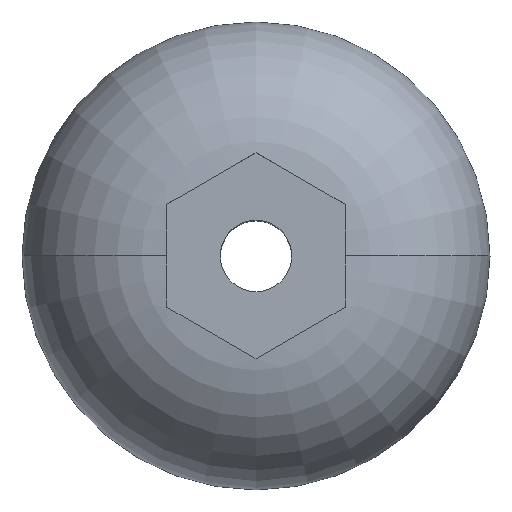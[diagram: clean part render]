
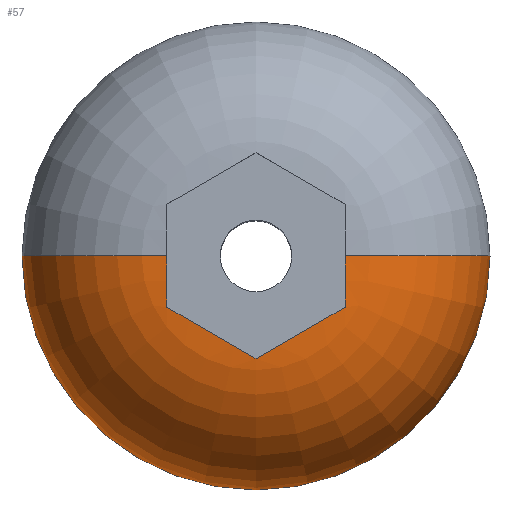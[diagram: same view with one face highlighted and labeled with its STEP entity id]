
A CAD part, top view. The second image highlights one B-rep face of the part: STEP entity #57.
In plain terms, the highlighted toroidal (fillet/blend) face has major radius 1.95 mm and minor radius 3.3 mm.
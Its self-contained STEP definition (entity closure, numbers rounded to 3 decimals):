
#8 = VERTEX_POINT ( 'NONE', #187 ) ;
#24 = CARTESIAN_POINT ( 'NONE',  ( 2., -0.963, 3.291 ) ) ;
#56 = CARTESIAN_POINT ( 'NONE',  ( 0., 0., 0. ) ) ;
#57 = ADVANCED_FACE ( 'NONE', ( #374 ), #111, .T. ) ;
#71 = EDGE_LOOP ( 'NONE', ( #337, #1225, #272, #1156, #103, #130, #606 ) ) ;
#84 = AXIS2_PLACEMENT_3D ( 'NONE', #56, #924, #723 ) ;
#95 = CARTESIAN_POINT ( 'NONE',  ( -2., -1.155, 3.28 ) ) ;
#103 = ORIENTED_EDGE ( 'NONE', *, *, #874, .T. ) ;
#111 = TOROIDAL_SURFACE ( 'NONE', #84, 1.95, 3.3 ) ;
#116 = CARTESIAN_POINT ( 'NONE',  ( 2., 0., 3.3 ) ) ;
#122 = CARTESIAN_POINT ( 'NONE',  ( 0.333, -2.117, 3.301 ) ) ;
#130 = ORIENTED_EDGE ( 'NONE', *, *, #703, .T. ) ;
#187 = CARTESIAN_POINT ( 'NONE',  ( -2., -1.155, 3.28 ) ) ;
#199 = B_SPLINE_CURVE_WITH_KNOTS ( 'NONE', 3,
 ( #989, #793, #304, #122, #1096 ),
 .UNSPECIFIED., .F., .F.,
 ( 4, 1, 4 ),
 ( 0., 0.001, 0.002 ),
 .UNSPECIFIED. ) ;
#214 = DIRECTION ( 'NONE',  ( -1., 0., 0. ) ) ;
#215 = EDGE_CURVE ( 'NONE', #8, #473, #475, .T. ) ;
#217 = CARTESIAN_POINT ( 'NONE',  ( 2., -0.77, 3.295 ) ) ;
#236 = VERTEX_POINT ( 'NONE', #669 ) ;
#272 = ORIENTED_EDGE ( 'NONE', *, *, #1052, .T. ) ;
#294 = CIRCLE ( 'NONE', #1071, 3.3 ) ;
#302 = EDGE_CURVE ( 'NONE', #1094, #236, #883, .T. ) ;
#304 = CARTESIAN_POINT ( 'NONE',  ( 1., -1.732, 3.298 ) ) ;
#315 = CARTESIAN_POINT ( 'NONE',  ( -1.95, 0., 0. ) ) ;
#325 = DIRECTION ( 'NONE',  ( 0., 0., -1. ) ) ;
#337 = ORIENTED_EDGE ( 'NONE', *, *, #888, .F. ) ;
#363 = CARTESIAN_POINT ( 'NONE',  ( -2., -0.963, 3.291 ) ) ;
#374 = FACE_OUTER_BOUND ( 'NONE', #71, .T. ) ;
#376 = CARTESIAN_POINT ( 'NONE',  ( -2., -0.194, 3.3 ) ) ;
#459 = CIRCLE ( 'NONE', #1211, 5.25 ) ;
#468 = CARTESIAN_POINT ( 'NONE',  ( -2., -0.77, 3.295 ) ) ;
#473 = VERTEX_POINT ( 'NONE', #536 ) ;
#475 = B_SPLINE_CURVE_WITH_KNOTS ( 'NONE', 3,
 ( #848, #363, #468, #560, #376, #1142 ),
 .UNSPECIFIED., .F., .F.,
 ( 4, 2, 4 ),
 ( 0.026, 0.026, 0.027 ),
 .UNSPECIFIED. ) ;
#484 = CARTESIAN_POINT ( 'NONE',  ( -0.333, -2.117, 3.301 ) ) ;
#496 = CARTESIAN_POINT ( 'NONE',  ( -5.25, 0., 0. ) ) ;
#536 = CARTESIAN_POINT ( 'NONE',  ( -2., 0., 3.3 ) ) ;
#560 = CARTESIAN_POINT ( 'NONE',  ( -2., -0.385, 3.3 ) ) ;
#591 = CARTESIAN_POINT ( 'NONE',  ( 5.25, 0., 0. ) ) ;
#594 = VERTEX_POINT ( 'NONE', #1145 ) ;
#598 = CARTESIAN_POINT ( 'NONE',  ( 2., -0.193, 3.3 ) ) ;
#606 = ORIENTED_EDGE ( 'NONE', *, *, #215, .T. ) ;
#629 = DIRECTION ( 'NONE',  ( 0., -1., 0. ) ) ;
#669 = CARTESIAN_POINT ( 'NONE',  ( 2., -1.155, 3.28 ) ) ;
#681 = EDGE_CURVE ( 'NONE', #985, #967, #459, .T. ) ;
#695 = CARTESIAN_POINT ( 'NONE',  ( 2., -1.155, 3.28 ) ) ;
#703 = EDGE_CURVE ( 'NONE', #594, #8, #1160, .T. ) ;
#723 = DIRECTION ( 'NONE',  ( 1., 0., 0. ) ) ;
#756 = DIRECTION ( 'NONE',  ( 1., 0., 0. ) ) ;
#787 = CARTESIAN_POINT ( 'NONE',  ( 2., -0.385, 3.3 ) ) ;
#793 = CARTESIAN_POINT ( 'NONE',  ( 1.667, -1.347, 3.301 ) ) ;
#848 = CARTESIAN_POINT ( 'NONE',  ( -2., -1.155, 3.28 ) ) ;
#873 = CARTESIAN_POINT ( 'NONE',  ( -1., -1.732, 3.298 ) ) ;
#874 = EDGE_CURVE ( 'NONE', #236, #594, #199, .T. ) ;
#883 = B_SPLINE_CURVE_WITH_KNOTS ( 'NONE', 3,
 ( #116, #598, #787, #217, #24, #695 ),
 .UNSPECIFIED., .F., .F.,
 ( 4, 2, 4 ),
 ( 0., 0.001, 0.001 ),
 .UNSPECIFIED. ) ;
#888 = EDGE_CURVE ( 'NONE', #985, #473, #1067, .T. ) ;
#903 = AXIS2_PLACEMENT_3D ( 'NONE', #315, #1004, #214 ) ;
#924 = DIRECTION ( 'NONE',  ( 0., 0., 1. ) ) ;
#967 = VERTEX_POINT ( 'NONE', #591 ) ;
#979 = CARTESIAN_POINT ( 'NONE',  ( 0., -2.309, 3.28 ) ) ;
#985 = VERTEX_POINT ( 'NONE', #496 ) ;
#989 = CARTESIAN_POINT ( 'NONE',  ( 2., -1.155, 3.28 ) ) ;
#1004 = DIRECTION ( 'NONE',  ( 0., 1., 0. ) ) ;
#1047 = CARTESIAN_POINT ( 'NONE',  ( 2., 0., 3.3 ) ) ;
#1052 = EDGE_CURVE ( 'NONE', #967, #1094, #294, .T. ) ;
#1067 = CIRCLE ( 'NONE', #903, 3.3 ) ;
#1071 = AXIS2_PLACEMENT_3D ( 'NONE', #1214, #629, #325 ) ;
#1072 = CARTESIAN_POINT ( 'NONE',  ( 0., 0., 0. ) ) ;
#1076 = CARTESIAN_POINT ( 'NONE',  ( -1.667, -1.347, 3.301 ) ) ;
#1094 = VERTEX_POINT ( 'NONE', #1047 ) ;
#1096 = CARTESIAN_POINT ( 'NONE',  ( 0., -2.309, 3.28 ) ) ;
#1142 = CARTESIAN_POINT ( 'NONE',  ( -2., 0., 3.3 ) ) ;
#1145 = CARTESIAN_POINT ( 'NONE',  ( 0., -2.309, 3.28 ) ) ;
#1156 = ORIENTED_EDGE ( 'NONE', *, *, #302, .T. ) ;
#1160 = B_SPLINE_CURVE_WITH_KNOTS ( 'NONE', 3,
 ( #979, #484, #873, #1076, #95 ),
 .UNSPECIFIED., .F., .F.,
 ( 4, 1, 4 ),
 ( 0., 0.001, 0.002 ),
 .UNSPECIFIED. ) ;
#1211 = AXIS2_PLACEMENT_3D ( 'NONE', #1072, #1236, #756 ) ;
#1214 = CARTESIAN_POINT ( 'NONE',  ( 1.95, 0., 0. ) ) ;
#1225 = ORIENTED_EDGE ( 'NONE', *, *, #681, .T. ) ;
#1236 = DIRECTION ( 'NONE',  ( 0., 0., 1. ) ) ;
